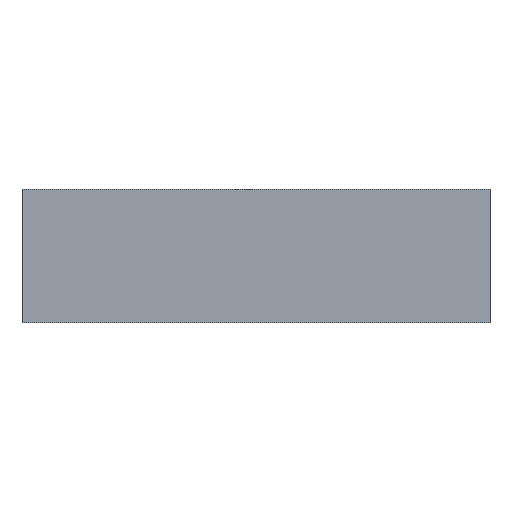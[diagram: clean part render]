
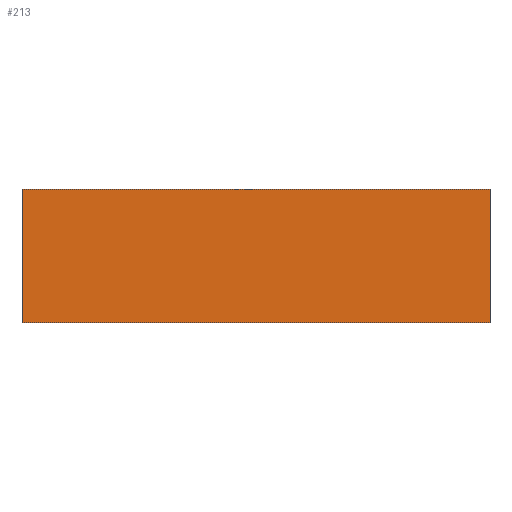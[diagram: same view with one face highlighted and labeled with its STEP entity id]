
A CAD part, top view. The second image highlights one B-rep face of the part: STEP entity #213.
In plain terms, the highlighted planar face has unit normal (0, 0, 1).
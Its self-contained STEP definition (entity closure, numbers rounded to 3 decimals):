
#24 = VERTEX_POINT('',#25);
#25 = CARTESIAN_POINT('',(0.,0.,11.));
#32 = PLANE('',#33);
#33 = AXIS2_PLACEMENT_3D('',#34,#35,#36);
#34 = CARTESIAN_POINT('',(0.,0.,7.));
#35 = DIRECTION('',(1.,0.,-0.));
#36 = DIRECTION('',(0.,0.,1.));
#44 = PLANE('',#45);
#45 = AXIS2_PLACEMENT_3D('',#46,#47,#48);
#46 = CARTESIAN_POINT('',(0.,0.,7.));
#47 = DIRECTION('',(-0.,1.,0.));
#48 = DIRECTION('',(0.,0.,1.));
#85 = VERTEX_POINT('',#86);
#86 = CARTESIAN_POINT('',(0.,20.,11.));
#100 = PLANE('',#101);
#101 = AXIS2_PLACEMENT_3D('',#102,#103,#104);
#102 = CARTESIAN_POINT('',(0.,20.,7.));
#103 = DIRECTION('',(-0.,1.,0.));
#104 = DIRECTION('',(0.,0.,1.));
#112 = EDGE_CURVE('',#24,#85,#113,.T.);
#113 = SURFACE_CURVE('',#114,(#118,#125),.PCURVE_S1.);
#114 = LINE('',#115,#116);
#115 = CARTESIAN_POINT('',(0.,0.,11.));
#116 = VECTOR('',#117,1.);
#117 = DIRECTION('',(-0.,1.,0.));
#118 = PCURVE('',#32,#119);
#119 = DEFINITIONAL_REPRESENTATION('',(#120),#124);
#120 = LINE('',#121,#122);
#121 = CARTESIAN_POINT('',(4.,0.));
#122 = VECTOR('',#123,1.);
#123 = DIRECTION('',(0.,-1.));
#124 = ( GEOMETRIC_REPRESENTATION_CONTEXT(2) 
PARAMETRIC_REPRESENTATION_CONTEXT() REPRESENTATION_CONTEXT('2D SPACE',''
  ) );
#125 = PCURVE('',#126,#131);
#126 = PLANE('',#127);
#127 = AXIS2_PLACEMENT_3D('',#128,#129,#130);
#128 = CARTESIAN_POINT('',(0.,0.,11.));
#129 = DIRECTION('',(0.,0.,1.));
#130 = DIRECTION('',(1.,0.,-0.));
#131 = DEFINITIONAL_REPRESENTATION('',(#132),#136);
#132 = LINE('',#133,#134);
#133 = CARTESIAN_POINT('',(0.,0.));
#134 = VECTOR('',#135,1.);
#135 = DIRECTION('',(0.,1.));
#136 = ( GEOMETRIC_REPRESENTATION_CONTEXT(2) 
PARAMETRIC_REPRESENTATION_CONTEXT() REPRESENTATION_CONTEXT('2D SPACE',''
  ) );
#165 = EDGE_CURVE('',#24,#166,#168,.T.);
#166 = VERTEX_POINT('',#167);
#167 = CARTESIAN_POINT('',(70.,0.,11.));
#168 = SURFACE_CURVE('',#169,(#173,#180),.PCURVE_S1.);
#169 = LINE('',#170,#171);
#170 = CARTESIAN_POINT('',(0.,0.,11.));
#171 = VECTOR('',#172,1.);
#172 = DIRECTION('',(1.,0.,-0.));
#173 = PCURVE('',#44,#174);
#174 = DEFINITIONAL_REPRESENTATION('',(#175),#179);
#175 = LINE('',#176,#177);
#176 = CARTESIAN_POINT('',(4.,0.));
#177 = VECTOR('',#178,1.);
#178 = DIRECTION('',(0.,1.));
#179 = ( GEOMETRIC_REPRESENTATION_CONTEXT(2) 
PARAMETRIC_REPRESENTATION_CONTEXT() REPRESENTATION_CONTEXT('2D SPACE',''
  ) );
#180 = PCURVE('',#126,#181);
#181 = DEFINITIONAL_REPRESENTATION('',(#182),#186);
#182 = LINE('',#183,#184);
#183 = CARTESIAN_POINT('',(0.,0.));
#184 = VECTOR('',#185,1.);
#185 = DIRECTION('',(1.,0.));
#186 = ( GEOMETRIC_REPRESENTATION_CONTEXT(2) 
PARAMETRIC_REPRESENTATION_CONTEXT() REPRESENTATION_CONTEXT('2D SPACE',''
  ) );
#202 = PLANE('',#203);
#203 = AXIS2_PLACEMENT_3D('',#204,#205,#206);
#204 = CARTESIAN_POINT('',(70.,0.,7.));
#205 = DIRECTION('',(1.,0.,-0.));
#206 = DIRECTION('',(0.,0.,1.));
#213 = ADVANCED_FACE('',(#214),#126,.T.);
#214 = FACE_BOUND('',#215,.T.);
#215 = EDGE_LOOP('',(#216,#217,#218,#241));
#216 = ORIENTED_EDGE('',*,*,#112,.F.);
#217 = ORIENTED_EDGE('',*,*,#165,.T.);
#218 = ORIENTED_EDGE('',*,*,#219,.T.);
#219 = EDGE_CURVE('',#166,#220,#222,.T.);
#220 = VERTEX_POINT('',#221);
#221 = CARTESIAN_POINT('',(70.,20.,11.));
#222 = SURFACE_CURVE('',#223,(#227,#234),.PCURVE_S1.);
#223 = LINE('',#224,#225);
#224 = CARTESIAN_POINT('',(70.,0.,11.));
#225 = VECTOR('',#226,1.);
#226 = DIRECTION('',(-0.,1.,0.));
#227 = PCURVE('',#126,#228);
#228 = DEFINITIONAL_REPRESENTATION('',(#229),#233);
#229 = LINE('',#230,#231);
#230 = CARTESIAN_POINT('',(70.,0.));
#231 = VECTOR('',#232,1.);
#232 = DIRECTION('',(0.,1.));
#233 = ( GEOMETRIC_REPRESENTATION_CONTEXT(2) 
PARAMETRIC_REPRESENTATION_CONTEXT() REPRESENTATION_CONTEXT('2D SPACE',''
  ) );
#234 = PCURVE('',#202,#235);
#235 = DEFINITIONAL_REPRESENTATION('',(#236),#240);
#236 = LINE('',#237,#238);
#237 = CARTESIAN_POINT('',(4.,0.));
#238 = VECTOR('',#239,1.);
#239 = DIRECTION('',(0.,-1.));
#240 = ( GEOMETRIC_REPRESENTATION_CONTEXT(2) 
PARAMETRIC_REPRESENTATION_CONTEXT() REPRESENTATION_CONTEXT('2D SPACE',''
  ) );
#241 = ORIENTED_EDGE('',*,*,#242,.F.);
#242 = EDGE_CURVE('',#85,#220,#243,.T.);
#243 = SURFACE_CURVE('',#244,(#248,#255),.PCURVE_S1.);
#244 = LINE('',#245,#246);
#245 = CARTESIAN_POINT('',(0.,20.,11.));
#246 = VECTOR('',#247,1.);
#247 = DIRECTION('',(1.,0.,-0.));
#248 = PCURVE('',#126,#249);
#249 = DEFINITIONAL_REPRESENTATION('',(#250),#254);
#250 = LINE('',#251,#252);
#251 = CARTESIAN_POINT('',(0.,20.));
#252 = VECTOR('',#253,1.);
#253 = DIRECTION('',(1.,0.));
#254 = ( GEOMETRIC_REPRESENTATION_CONTEXT(2) 
PARAMETRIC_REPRESENTATION_CONTEXT() REPRESENTATION_CONTEXT('2D SPACE',''
  ) );
#255 = PCURVE('',#100,#256);
#256 = DEFINITIONAL_REPRESENTATION('',(#257),#261);
#257 = LINE('',#258,#259);
#258 = CARTESIAN_POINT('',(4.,0.));
#259 = VECTOR('',#260,1.);
#260 = DIRECTION('',(0.,1.));
#261 = ( GEOMETRIC_REPRESENTATION_CONTEXT(2) 
PARAMETRIC_REPRESENTATION_CONTEXT() REPRESENTATION_CONTEXT('2D SPACE',''
  ) );
